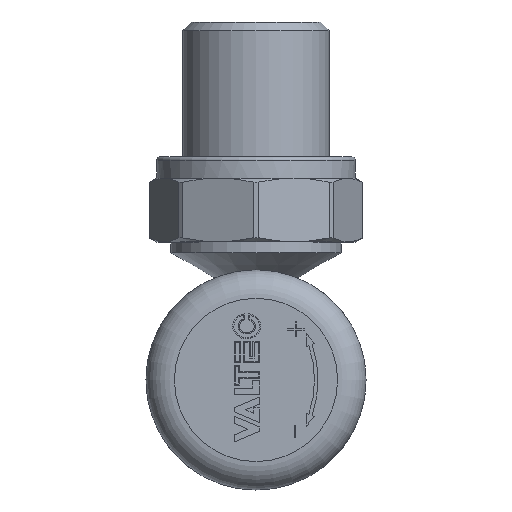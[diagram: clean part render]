
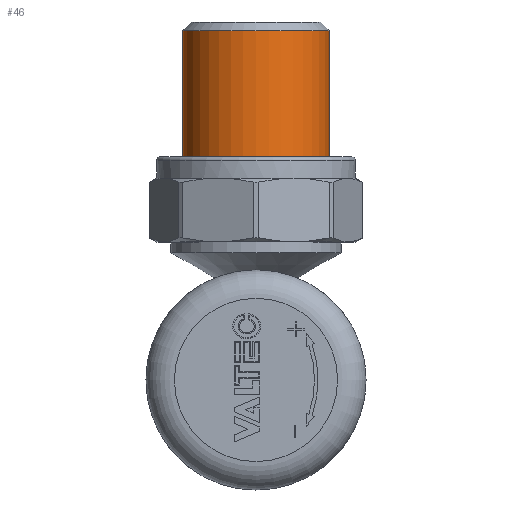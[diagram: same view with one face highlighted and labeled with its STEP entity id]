
A CAD part, top view. The second image highlights one B-rep face of the part: STEP entity #46.
In plain terms, the highlighted cylindrical face has radius 10.3 mm (diameter 20.6 mm), a full revolution.
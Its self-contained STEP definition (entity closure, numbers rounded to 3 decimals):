
#46=ADVANCED_FACE('',(#328),#330,.T.);
#328=FACE_BOUND('',#329,.T.);
#329=EDGE_LOOP('',(#2564,#2565,#2566,#2567));
#330=CYLINDRICAL_SURFACE('',#331,10.3);
#331=AXIS2_PLACEMENT_3D('',#332,#333,#334);
#332=CARTESIAN_POINT('',(0.,29.,0.));
#333=DIRECTION('',(0.,1.,0.));
#334=DIRECTION('',(-1.,0.,0.));
#2564=ORIENTED_EDGE('',*,*,#4047,.F.);
#2565=ORIENTED_EDGE('',*,*,#4048,.F.);
#2566=ORIENTED_EDGE('',*,*,#4045,.F.);
#2567=ORIENTED_EDGE('',*,*,#4048,.T.);
#4045=EDGE_CURVE('',#4725,#4725,#4726,.F.);
#4047=EDGE_CURVE('',#4730,#4731,#4732,.T.);
#4048=EDGE_CURVE('',#4725,#4731,#4733,.T.);
#4725=VERTEX_POINT('',#5889);
#4726=CIRCLE('',#5890,10.3);
#4730=VERTEX_POINT('',#5900);
#4731=VERTEX_POINT('',#5901);
#4732=CIRCLE('',#5902,10.3);
#4733=LINE('',#5906,#5907);
#5889=CARTESIAN_POINT('',(-10.3,29.,0.));
#5890=AXIS2_PLACEMENT_3D('',#5891,#5892,#5893);
#5891=CARTESIAN_POINT('',(0.,29.,0.));
#5892=DIRECTION('',(0.,1.,0.));
#5893=DIRECTION('',(-1.,0.,0.));
#5900=CARTESIAN_POINT('',(-10.3,49.3,0.));
#5901=CARTESIAN_POINT('',(-10.3,49.3,0.));
#5902=AXIS2_PLACEMENT_3D('',#5903,#5904,#5905);
#5903=CARTESIAN_POINT('',(0.,49.3,0.));
#5904=DIRECTION('',(0.,1.,0.));
#5905=DIRECTION('',(-1.,0.,0.));
#5906=CARTESIAN_POINT('',(-10.3,29.,0.));
#5907=VECTOR('',#5908,1.);
#5908=DIRECTION('',(0.,1.,0.));
